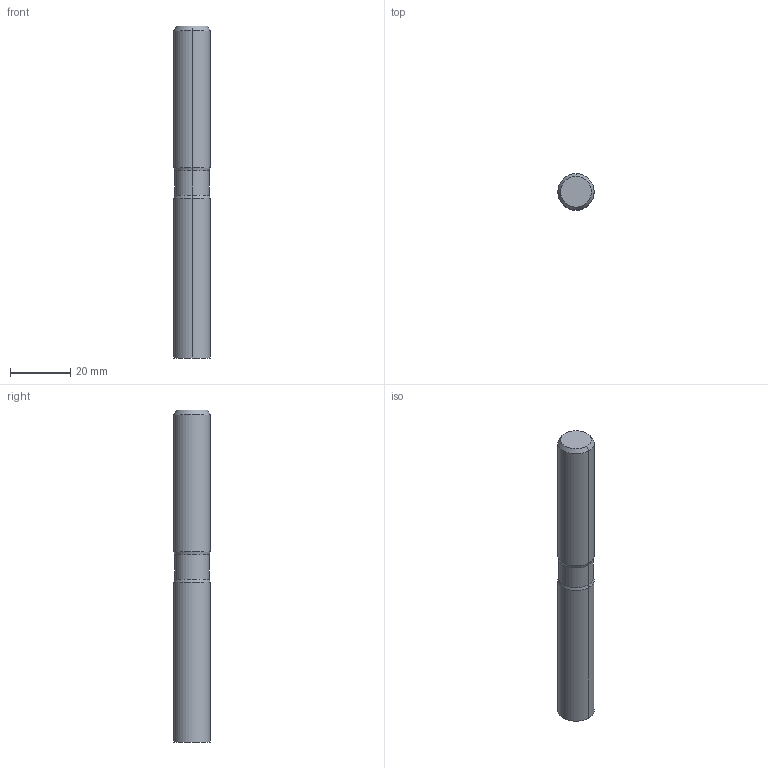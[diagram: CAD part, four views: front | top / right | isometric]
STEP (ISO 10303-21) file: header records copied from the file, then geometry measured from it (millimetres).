
FILE_DESCRIPTION((''),'2;1');
FILE_NAME('DIN4003_82_HEURO','2016-04-19T',('automc'),(''),'PRO/ENGINEER BY PARAMETRIC TECHNOLOGY CORPORATION, 2015280','PRO/ENGINEER BY PARAMETRIC TECHNOLOGY CORPORATION, 2015280','');
FILE_SCHEMA(('AUTOMOTIVE_DESIGN { 1 0 10303 214 1 1 1 1 }'));
Length unit declared in the file: millimetre
Products named in the file (1): DIN4003_82_HEURO
Bounding box: 12 x 12 x 110 mm (x, y, z)
Volume: 12330.9 mm3; surface area: 4335.3 mm2
Topology: 1 solids, 1 shells, 14 faces, 28 edges, 17 vertices
Faces by surface type: bspline 14
Entity records: 1009 total; most frequent: CARTESIAN_POINT 479, DIRECTION 76, ORIENTED_EDGE 52, AXIS2_PLACEMENT_3D 30, EDGE_CURVE 26, PRESENTATION_STYLE_ASSIGNMENT 25, STYLED_ITEM 25, CIRCLE 18
